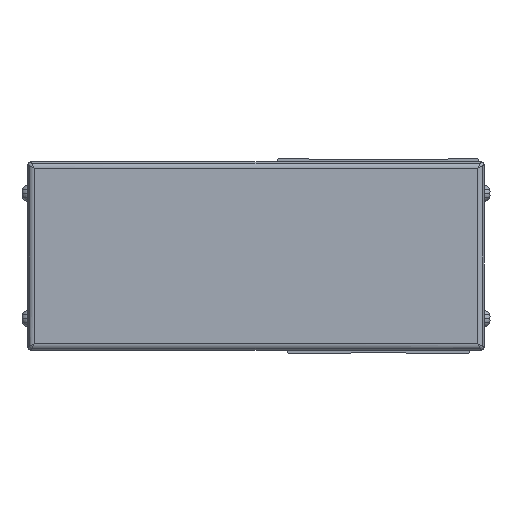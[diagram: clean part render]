
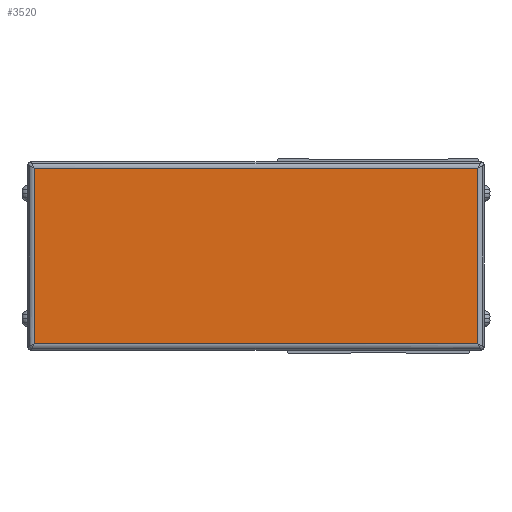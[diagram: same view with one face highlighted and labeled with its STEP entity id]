
A CAD part, front view. The second image highlights one B-rep face of the part: STEP entity #3520.
In plain terms, the highlighted planar face has unit normal (0, -1, 0).
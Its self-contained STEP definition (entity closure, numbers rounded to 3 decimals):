
#3520=ADVANCED_FACE('',(#8595),#8596,.F.);
#8595=FACE_OUTER_BOUND('',#15886,.T.);
#8596=PLANE('',#15887);
#15886=EDGE_LOOP('',(#25668,#25669,#25670,#25671));
#15887=AXIS2_PLACEMENT_3D('',#25672,#25673,#25674);
#25668=ORIENTED_EDGE('',*,*,#44810,.T.);
#25669=ORIENTED_EDGE('',*,*,#44811,.T.);
#25670=ORIENTED_EDGE('',*,*,#44812,.T.);
#25671=ORIENTED_EDGE('',*,*,#44790,.T.);
#25672=CARTESIAN_POINT('',(261.,106.,-4.));
#25673=DIRECTION('',(0.,1.0,0.));
#25674=DIRECTION('',(0.,0.,1.0));
#44790=EDGE_CURVE('',#54133,#54131,#54134,.T.);
#44810=EDGE_CURVE('',#54131,#54167,#54168,.T.);
#44811=EDGE_CURVE('',#54167,#54169,#54170,.T.);
#44812=EDGE_CURVE('',#54169,#54133,#54171,.T.);
#54131=VERTEX_POINT('',#67086);
#54133=VERTEX_POINT('',#67088);
#54134=LINE('',#67089,#67090);
#54167=VERTEX_POINT('',#67135);
#54168=LINE('',#67136,#67137);
#54169=VERTEX_POINT('',#67138);
#54170=LINE('',#67139,#67140);
#54171=LINE('',#67141,#67142);
#67086=CARTESIAN_POINT('',(331.7,106.,24.));
#67088=CARTESIAN_POINT('',(331.7,106.,-32.));
#67089=CARTESIAN_POINT('',(331.7,106.,-4.));
#67090=VECTOR('',#81561,10.0);
#67135=CARTESIAN_POINT('',(190.3,106.,24.));
#67136=CARTESIAN_POINT('',(261.,106.,24.));
#67137=VECTOR('',#81583,10.0);
#67138=CARTESIAN_POINT('',(190.3,106.,-32.));
#67139=CARTESIAN_POINT('',(190.3,106.,-4.));
#67140=VECTOR('',#81584,10.0);
#67141=CARTESIAN_POINT('',(261.,106.,-32.));
#67142=VECTOR('',#81585,10.0);
#81561=DIRECTION('',(0.,0.,1.0));
#81583=DIRECTION('',(-1.0,0.,0.));
#81584=DIRECTION('',(0.,0.,-1.0));
#81585=DIRECTION('',(1.0,0.,0.));
